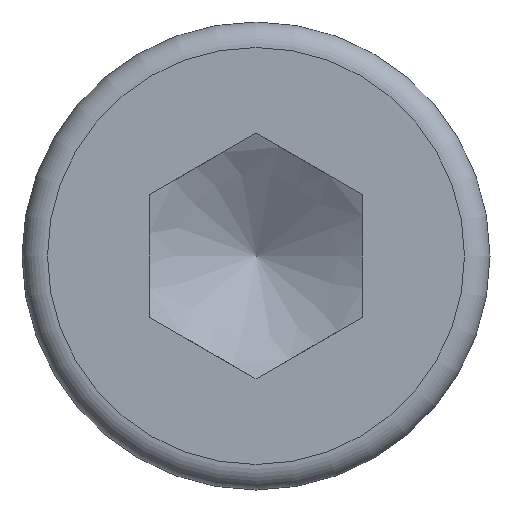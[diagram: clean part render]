
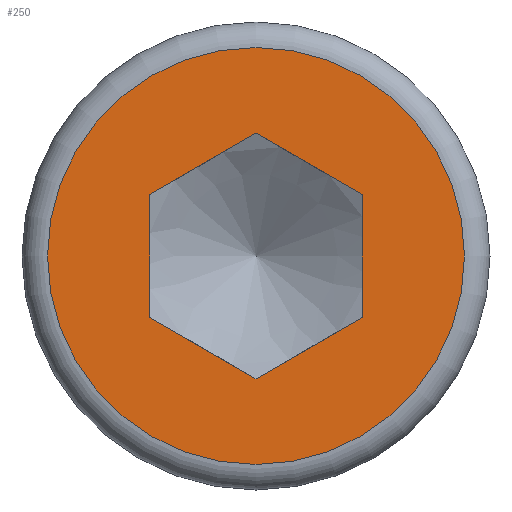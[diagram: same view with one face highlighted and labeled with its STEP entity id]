
A CAD part, left-side view. The second image highlights one B-rep face of the part: STEP entity #250.
In plain terms, the highlighted planar face has unit normal (-1, 0, 0).
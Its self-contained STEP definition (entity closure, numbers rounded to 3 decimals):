
#25=FACE_BOUND('',#92,.T.);
#28=PLANE('',#300);
#37=LINE('',#415,#53);
#38=LINE('',#417,#54);
#39=LINE('',#419,#55);
#40=LINE('',#421,#56);
#41=LINE('',#423,#57);
#42=LINE('',#424,#58);
#53=VECTOR('',#351,10.);
#54=VECTOR('',#352,10.);
#55=VECTOR('',#353,10.);
#56=VECTOR('',#354,10.);
#57=VECTOR('',#355,10.);
#58=VECTOR('',#356,10.);
#75=FACE_OUTER_BOUND('',#91,.T.);
#91=EDGE_LOOP('',(#196));
#92=EDGE_LOOP('',(#197,#198,#199,#200,#201,#202));
#112=CIRCLE('',#299,2.45);
#122=VERTEX_POINT('',#409);
#123=VERTEX_POINT('',#413);
#124=VERTEX_POINT('',#414);
#125=VERTEX_POINT('',#416);
#126=VERTEX_POINT('',#418);
#127=VERTEX_POINT('',#420);
#128=VERTEX_POINT('',#422);
#150=EDGE_CURVE('',#122,#122,#112,.T.);
#151=EDGE_CURVE('',#123,#124,#37,.T.);
#152=EDGE_CURVE('',#124,#125,#38,.T.);
#153=EDGE_CURVE('',#125,#126,#39,.T.);
#154=EDGE_CURVE('',#126,#127,#40,.T.);
#155=EDGE_CURVE('',#127,#128,#41,.T.);
#156=EDGE_CURVE('',#128,#123,#42,.T.);
#196=ORIENTED_EDGE('',*,*,#150,.F.);
#197=ORIENTED_EDGE('',*,*,#151,.T.);
#198=ORIENTED_EDGE('',*,*,#152,.T.);
#199=ORIENTED_EDGE('',*,*,#153,.T.);
#200=ORIENTED_EDGE('',*,*,#154,.T.);
#201=ORIENTED_EDGE('',*,*,#155,.T.);
#202=ORIENTED_EDGE('',*,*,#156,.T.);
#250=ADVANCED_FACE('',(#75,#25),#28,.T.);
#299=AXIS2_PLACEMENT_3D('',#411,#347,#348);
#300=AXIS2_PLACEMENT_3D('',#412,#349,#350);
#347=DIRECTION('center_axis',(1.,0.,0.));
#348=DIRECTION('ref_axis',(0.,-1.,0.));
#349=DIRECTION('center_axis',(-1.,0.,0.));
#350=DIRECTION('ref_axis',(0.,0.,1.));
#351=DIRECTION('',(0.,0.,1.));
#352=DIRECTION('',(0.,-0.866,0.5));
#353=DIRECTION('',(0.,-0.866,-0.5));
#354=DIRECTION('',(0.,0.,-1.));
#355=DIRECTION('',(0.,0.866,-0.5));
#356=DIRECTION('',(0.,0.866,0.5));
#409=CARTESIAN_POINT('',(-3.,0.,2.45));
#411=CARTESIAN_POINT('Origin',(-3.,0.,
0.));
#412=CARTESIAN_POINT('Origin',(-3.,2.097,0.));
#413=CARTESIAN_POINT('',(-3.,1.25,-0.722));
#414=CARTESIAN_POINT('',(-3.,1.25,0.722));
#415=CARTESIAN_POINT('',(-3.,1.25,0.361));
#416=CARTESIAN_POINT('',(-3.,0.,1.443));
#417=CARTESIAN_POINT('',(-3.,0.313,1.263));
#418=CARTESIAN_POINT('',(-3.,-1.25,0.722));
#419=CARTESIAN_POINT('',(-3.,-0.938,0.902));
#420=CARTESIAN_POINT('',(-3.,-1.25,-0.722));
#421=CARTESIAN_POINT('',(-3.,-1.25,-0.361));
#422=CARTESIAN_POINT('',(-3.,0.,-1.443));
#423=CARTESIAN_POINT('',(-3.,-0.313,-1.263));
#424=CARTESIAN_POINT('',(-3.,0.938,-0.902));
